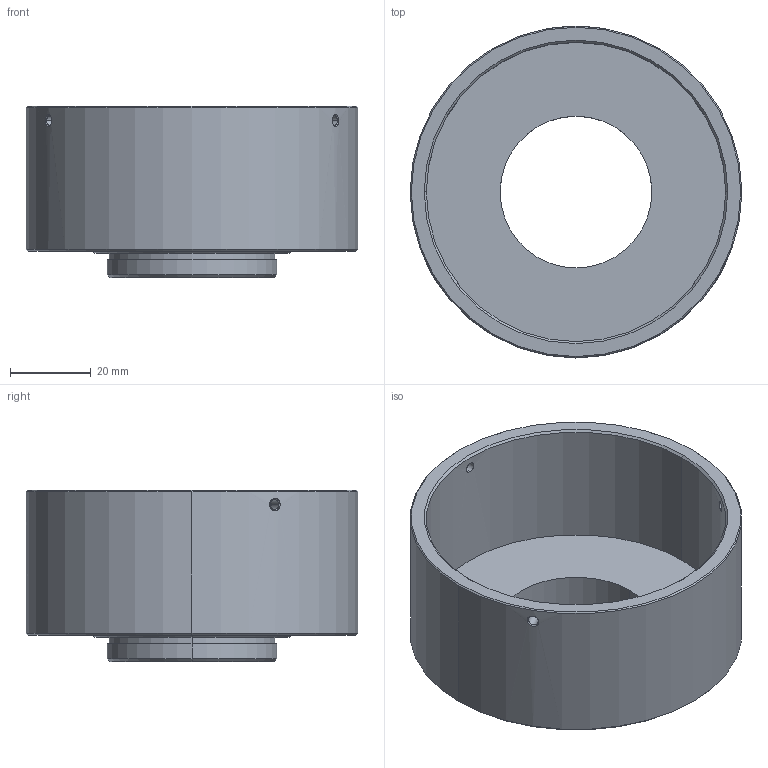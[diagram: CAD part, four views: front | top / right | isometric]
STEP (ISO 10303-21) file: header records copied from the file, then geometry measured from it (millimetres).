
FILE_DESCRIPTION (( 'STEP AP214' ), '1' );
FILE_NAME ('CA-V74M42-12.0.STEP', '2026-02-25T01:46:57', ( '' ), ( '' ), 'SwSTEP 2.0', 'SolidWorks 2025', '' );
FILE_SCHEMA (( 'AUTOMOTIVE_DESIGN' ));
Length unit declared in the file: millimetre
Products named in the file (1): CA-V74M42-12.0
Bounding box: 82 x 82 x 42.3 mm (x, y, z)
Volume: 50623.2 mm3; surface area: 26937.2 mm2
Topology: 1 solids, 1 shells, 38 faces, 82 edges, 50 vertices
Faces by surface type: cylinder 16, cone 16, plane 6
Entity records: 1307 total; most frequent: CARTESIAN_POINT 431, DIRECTION 186, ORIENTED_EDGE 164, EDGE_CURVE 82, AXIS2_PLACEMENT_3D 77, VERTEX_POINT 50, EDGE_LOOP 50, ADVANCED_FACE 38
